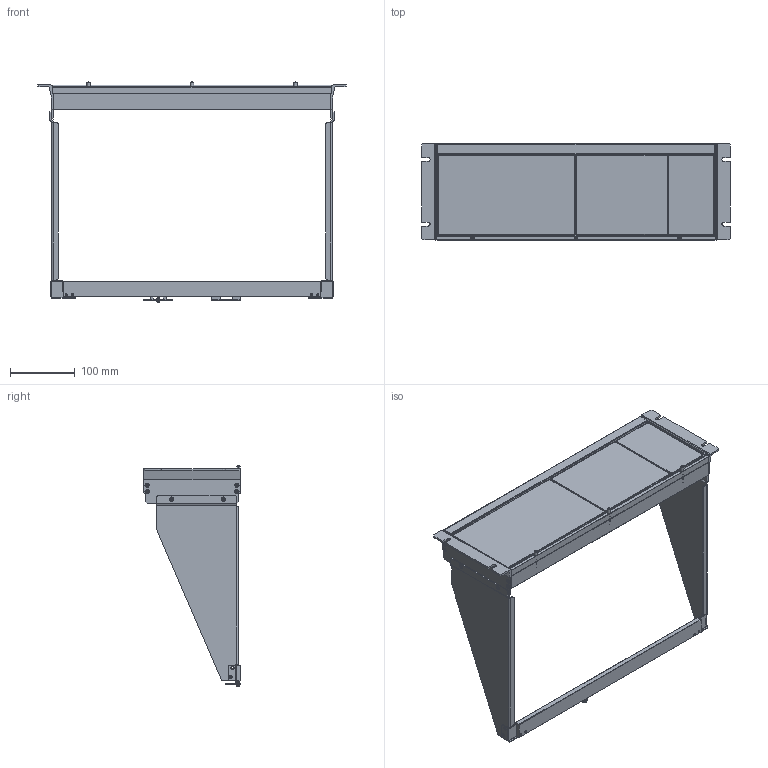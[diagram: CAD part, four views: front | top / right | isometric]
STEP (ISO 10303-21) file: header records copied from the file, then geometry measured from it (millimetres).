
FILE_DESCRIPTION((''),'2;1');
FILE_NAME('JIS-RACK-3U_ASM_ASM','2019-06-12T10:00:23',('jeffery_kuo'),(''),'CREO PARAMETRIC BY PTC INC, 2018100','CREO PARAMETRIC BY PTC INC, 2018100','');
FILE_SCHEMA(('CONFIG_CONTROL_DESIGN'));
Length unit declared in the file: millimetre
Products named in the file (31): EIA-RACK_ASM_SKEL0002; 62RA-410HP101; 62RA-410HP2A1; 62RA-410HP3A1; 62RA-410HPBA1; 62RA-410HP4A1; 62RA-410HP4A1-HP; 62RA-410HP4A1_ASM; 62RA-410HP5B1; 62RA-410HP5B1-HP; 62RA-410HP5B1_ASM; 62RA-410HPC01; 62RA-410HPC01_ASM; 59CA-04017NS1; 62RA-410HP801; 62RA-410HP801_ASM; 62RA-410HP701; 62RA-410HP701_ASM; 62RA-410HP601; 62RA-410HP601_ASM; 5320-00403001-SR-3S-1; 5320-00403001-SR-3S-2; 5320-00403001-SR-3S_ASM; PMS-W-3X6; FMS-3X8; FMS-3X5; IMS-3X6; 62RA-410HP9A1; 62RA-410HP9A1_ASM; 62RA-410HPD01; JIS-RACK-3U_ASM_ASM
Assembly tree (52 placements, depth 3):
  JIS-RACK-3U_ASM_ASM
    EIA-RACK_ASM_SKEL0002
    62RA-410HP101
    62RA-410HP2A1
    62RA-410HP3A1
    62RA-410HPBA1  x2
    62RA-410HP4A1_ASM
      62RA-410HP4A1
      62RA-410HP4A1-HP
    62RA-410HP5B1_ASM
      62RA-410HP5B1
      62RA-410HP5B1-HP
    62RA-410HPC01_ASM
      62RA-410HPC01
    59CA-04017NS1  x3
    62RA-410HP801_ASM
      62RA-410HP801
    62RA-410HP701_ASM
      62RA-410HP701
    62RA-410HP601_ASM
      62RA-410HP601
    5320-00403001-SR-3S_ASM  x4
      5320-00403001-SR-3S-1
      5320-00403001-SR-3S-2
    PMS-W-3X6  x4
    FMS-3X8  x8
    FMS-3X5  x4
    IMS-3X6  x4
    62RA-410HP9A1_ASM
      62RA-410HP9A1
    62RA-410HPD01
Bounding box: 477.6 x 149 x 340.94 mm (x, y, z)
Volume: 450162.9 mm3; surface area: 437217.5 mm2
Topology: 50 solids, 50 shells, 1996 faces, 4955 edges, 3057 vertices
Faces by surface type: plane 1067, cylinder 667, cone 178, sphere 38, bspline 24, torus 22
Entity records: 41443 total; most frequent: CARTESIAN_POINT 8537, DIRECTION 7071, ORIENTED_EDGE 6516, EDGE_CURVE 3258, AXIS2_PLACEMENT_3D 2459, VECTOR 2153, LINE 2153, VERTEX_POINT 1979
